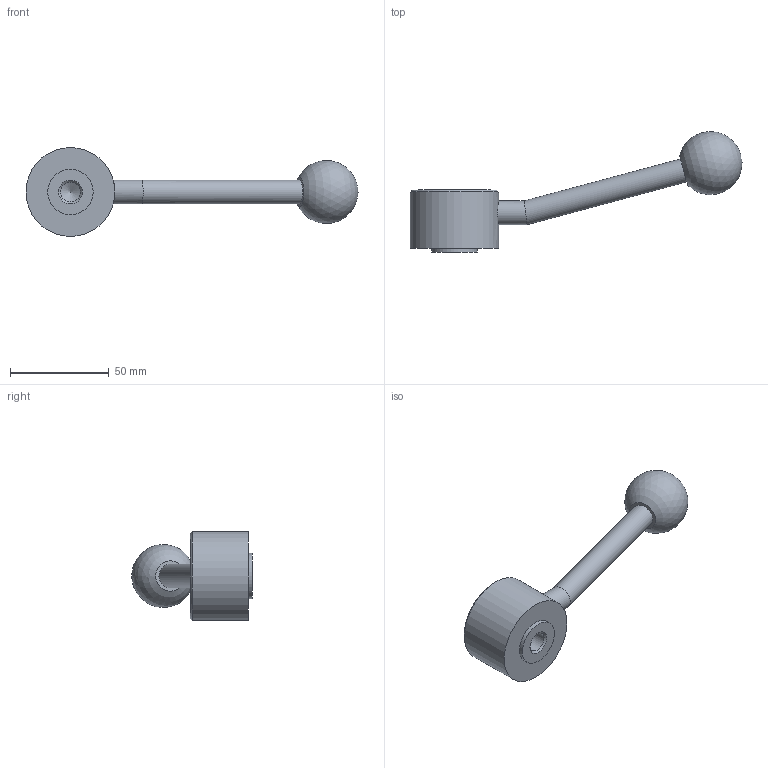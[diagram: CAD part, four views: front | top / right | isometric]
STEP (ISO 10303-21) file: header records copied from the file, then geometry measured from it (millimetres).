
FILE_DESCRIPTION( ( 'STEP AP203' ), '1' );
FILE_NAME( 'C:/Temp/Ganter_Step_05_03_2020/data/2_1/gn_125/gn_125_mb/gn_125_mb_e/Flat Adjustable Lever GN 125-45-M12-E.stp', '2020-03-05T11:00:43', ( 'License CC BY-ND 4.0' ), ( 'CADENAS' ), ' ', 'PARTsolutions', ' ' );
FILE_SCHEMA( ( 'CONFIG_CONTROL_DESIGN' ) );
Length unit declared in the file: millimetre
Products named in the file (1): _Flat Adjustable Lever GN 125-45-M12-E
Bounding box: 168.04 x 61.04 x 45 mm (x, y, z)
Volume: 73425.3 mm3; surface area: 14787 mm2
Topology: 1 solids, 1 shells, 15 faces, 27 edges, 17 vertices
Faces by surface type: cylinder 6, plane 5, cone 3, sphere 1
Full cylindrical faces by diameter (mm): 10.106 x1, 12 x2, 23 x1, 32 x1, 45 x1
Entity records: 426 total; most frequent: CARTESIAN_POINT 129, DIRECTION 58, AXIS2_PLACEMENT_3D 29, EDGE_LOOP 28, ORIENTED_EDGE 28, FACE_OUTER_BOUND 21, VERTEX_POINT 16, ADVANCED_FACE 15
